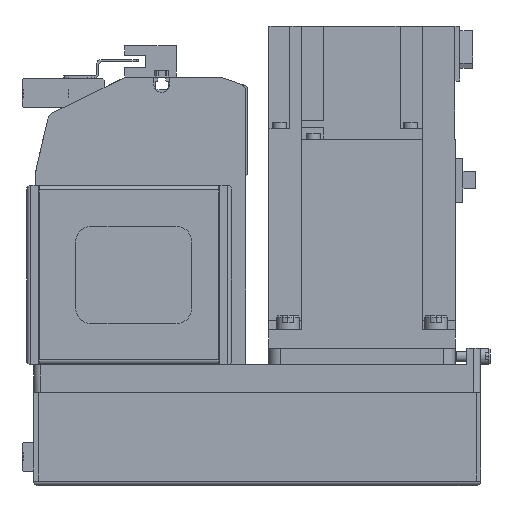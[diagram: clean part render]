
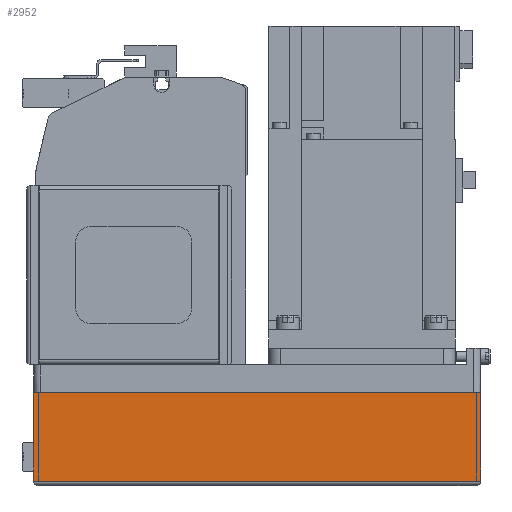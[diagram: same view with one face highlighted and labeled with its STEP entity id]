
A CAD part, left-side view. The second image highlights one B-rep face of the part: STEP entity #2952.
In plain terms, the highlighted planar face has unit normal (-1, 0, 0) as drawn and (0, 1, 0) by its records, which use the part's own axes.
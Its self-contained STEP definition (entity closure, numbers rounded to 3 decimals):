
#2952 = ADVANCED_FACE( '', ( #6165 ), #6166, .T. );
#6165 = FACE_OUTER_BOUND( '', #9473, .T. );
#6166 = PLANE( '', #9474 );
#9473 = EDGE_LOOP( '', ( #17757, #17758, #17759, #17760 ) );
#9474 = AXIS2_PLACEMENT_3D( '', #17761, #17762, #17763 );
#17757 = ORIENTED_EDGE( '', *, *, #20270, .F. );
#17758 = ORIENTED_EDGE( '', *, *, #20730, .F. );
#17759 = ORIENTED_EDGE( '', *, *, #21893, .T. );
#17760 = ORIENTED_EDGE( '', *, *, #22130, .T. );
#17761 = CARTESIAN_POINT( '', ( -192., 40., -50. ) );
#17762 = DIRECTION( '', ( 0., 1., 0. ) );
#17763 = DIRECTION( '', ( 0., 0., 1. ) );
#20270 = EDGE_CURVE( '', #24142, #24801, #24802, .T. );
#20730 = EDGE_CURVE( '', #24109, #24142, #25490, .T. );
#21893 = EDGE_CURVE( '', #24109, #27043, #27045, .T. );
#22130 = EDGE_CURVE( '', #27043, #24801, #27314, .T. );
#24109 = VERTEX_POINT( '', #30090 );
#24142 = VERTEX_POINT( '', #30130 );
#24801 = VERTEX_POINT( '', #31090 );
#24802 = LINE( '', #31091, #31092 );
#25490 = LINE( '', #32103, #32104 );
#27043 = VERTEX_POINT( '', #34563 );
#27045 = LINE( '', #34566, #34567 );
#27314 = LINE( '', #34938, #34939 );
#30090 = CARTESIAN_POINT( '', ( -192., 40., -50. ) );
#30130 = CARTESIAN_POINT( '', ( 0., 40., -50. ) );
#31090 = CARTESIAN_POINT( '', ( 0., 40., -12.1 ) );
#31091 = CARTESIAN_POINT( '', ( 0., 40., -50. ) );
#31092 = VECTOR( '', #37088, 1000. );
#32103 = CARTESIAN_POINT( '', ( -192., 40., -50. ) );
#32104 = VECTOR( '', #37658, 1000. );
#34563 = CARTESIAN_POINT( '', ( -192., 40., -12.1 ) );
#34566 = CARTESIAN_POINT( '', ( -192., 40., -50. ) );
#34567 = VECTOR( '', #38894, 1000. );
#34938 = CARTESIAN_POINT( '', ( -192., 40., -12.1 ) );
#34939 = VECTOR( '', #39078, 1000. );
#37088 = DIRECTION( '', ( 0., 0., 1. ) );
#37658 = DIRECTION( '', ( 1., 0., 0. ) );
#38894 = DIRECTION( '', ( 0., 0., 1. ) );
#39078 = DIRECTION( '', ( 1., 0., 0. ) );
